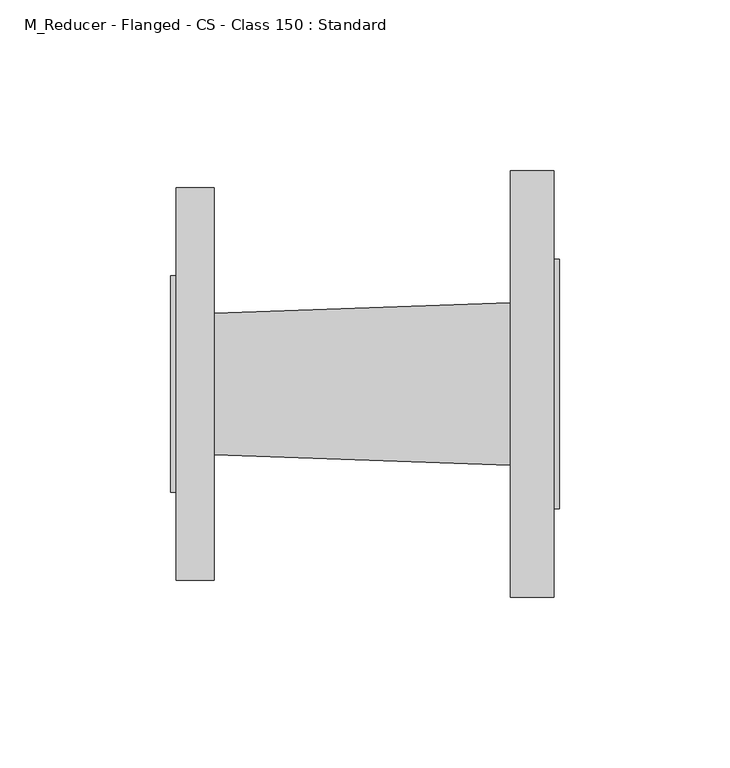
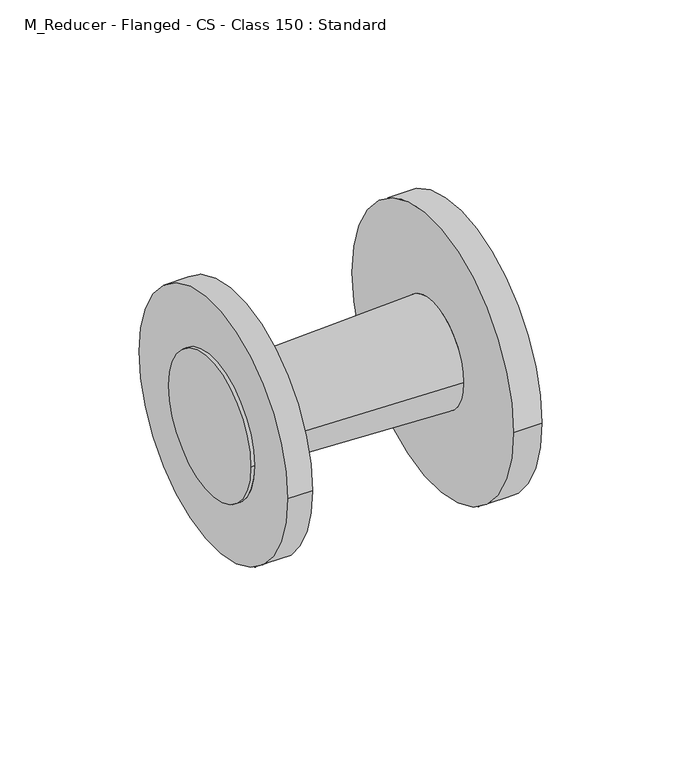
"""IFC4 building model written with IfcOpenShell, lengths in millimetres: pipe fitting geometry, M_Reducer - Flanged - CS - Class 150 : Standard."""

from ifc_helpers import new_model, si_unit, frame, origin, place, context, project, spatial, polyline, circle_curve, source, transform, mapped, element, save
from ifc_brep_helpers import plane_surface, cylinder_surface, revolved_surface, advanced_brep


def m_reducer_flanged_cs_class_150_standard_84a20e65(model_context):
    return source(origin(), model_context, "Body", "AdvancedBrep", [
        advanced_brep(
        [(12.7875, -57.5, 0.0), (12.7875, 57.5, 0.0), (12.7875, 20.8, 0.0), (12.7875, -20.8, 0.0), (1.5875, -57.5, 0.0), (1.5875, 57.5, 0.0), (1.5875, -31.75, 0.0), (1.5875, 31.75, 0.0), (99.7125, 23.8, 0.0), (99.7125, -23.8, 0.0), (112.4125, -62.5, 0.0), (112.4125, 62.5, 0.0), (112.4125, 36.5, 0.0), (112.4125, -36.5, 0.0), (99.7125, -62.5, 0.0), (99.7125, 62.5, 0.0), (0.0, -31.75, 0.0), (0.0, 31.75, 0.0), (114.0, -36.5, 0.0), (114.0, 36.5, 0.0)],
        [
            (0, 1, circle_curve(frame((12.7875, 0.0, 0.0), z_axis=(1.0, 0.0, 0.0), x_axis=(0.0, 1.0, 0.0)), 57.5)),
            (1, 0, circle_curve(frame((12.7875, 0.0, 0.0), z_axis=(1.0, 0.0, 0.0), x_axis=(0.0, 1.0, 0.0)), 57.5)),
            (2, 3, circle_curve(frame((12.7875, 0.0, 0.0), z_axis=(-1.0, 0.0, 0.0), x_axis=(0.0, -1.0, 0.0)), 20.8)),
            (3, 2, circle_curve(frame((12.7875, 0.0, 0.0), z_axis=(-1.0, 0.0, 0.0), x_axis=(0.0, 1.0, 0.0)), 20.8)),
            (4, 5, circle_curve(frame((1.5875, 0.0, 0.0), z_axis=(-1.0, 0.0, 0.0), x_axis=(0.0, 1.0, 0.0)), 57.5)),
            (5, 4, circle_curve(frame((1.5875, 0.0, 0.0), z_axis=(-1.0, 0.0, 0.0), x_axis=(0.0, 1.0, 0.0)), 57.5)),
            (6, 7, circle_curve(frame((1.5875, 0.0, 0.0), z_axis=(1.0, 0.0, 0.0), x_axis=(0.0, 1.0, 0.0)), 31.75)),
            (7, 6, circle_curve(frame((1.5875, 0.0, 0.0), z_axis=(1.0, 0.0, 0.0), x_axis=(0.0, 1.0, 0.0)), 31.75)),
            (0, 4),
            (5, 1),
            (2, 8),
            (8, 9, circle_curve(frame((99.7125, 0.0, 0.0), z_axis=(-1.0, 0.0, 0.0), x_axis=(0.0, -1.0, 0.0)), 23.8)),
            (9, 3),
            (9, 8, circle_curve(frame((99.7125, 0.0, 0.0), z_axis=(-1.0, 0.0, 0.0), x_axis=(0.0, 1.0, 0.0)), 23.8)),
            (10, 11, circle_curve(frame((112.4125, 0.0, 0.0), z_axis=(1.0, 0.0, 0.0), x_axis=(0.0, 1.0, 0.0)), 62.5)),
            (11, 10, circle_curve(frame((112.4125, 0.0, 0.0), z_axis=(1.0, 0.0, 0.0), x_axis=(0.0, 1.0, 0.0)), 62.5)),
            (12, 13, circle_curve(frame((112.4125, 0.0, 0.0), z_axis=(-1.0, 0.0, 0.0), x_axis=(0.0, 1.0, 0.0)), 36.5)),
            (13, 12, circle_curve(frame((112.4125, 0.0, 0.0), z_axis=(-1.0, 0.0, 0.0), x_axis=(0.0, 1.0, 0.0)), 36.5)),
            (14, 15, circle_curve(frame((99.7125, 0.0, 0.0), z_axis=(-1.0, 0.0, 0.0), x_axis=(0.0, 1.0, 0.0)), 62.5)),
            (15, 14, circle_curve(frame((99.7125, 0.0, 0.0), z_axis=(-1.0, 0.0, 0.0), x_axis=(0.0, 1.0, 0.0)), 62.5)),
            (10, 14),
            (15, 11),
            (16, 17, circle_curve(frame((0.0, 0.0, 0.0), z_axis=(-1.0, 0.0, 0.0), x_axis=(0.0, 1.0, 0.0)), 31.75)),
            (17, 16, circle_curve(frame((0.0, 0.0, 0.0), z_axis=(-1.0, 0.0, 0.0), x_axis=(0.0, 1.0, 0.0)), 31.75)),
            (17, 7),
            (6, 16),
            (18, 19, circle_curve(frame((114.0, 0.0, 0.0), z_axis=(1.0, 0.0, 0.0), x_axis=(0.0, 1.0, 0.0)), 36.5)),
            (19, 18, circle_curve(frame((114.0, 0.0, 0.0), z_axis=(1.0, 0.0, 0.0), x_axis=(0.0, 1.0, 0.0)), 36.5)),
            (18, 13),
            (12, 19),
        ],
        [
            plane_surface(frame((12.7875, 57.5, 0.0), z_axis=(1.0, 0.0, 0.0), x_axis=(0.0, 0.0, 1.0))),
            plane_surface(frame((1.5875, 57.5, 0.0), z_axis=(-1.0, 0.0, 0.0), x_axis=(0.0, 0.0, -1.0))),
            cylinder_surface(frame((1.5875, 0.0, 0.0), z_axis=(1.0, 0.0, 0.0), x_axis=(0.0, 1.0, 0.0)), 57.5),
            revolved_surface(polyline([(12.787500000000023, 20.800000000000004, 0.0), (99.71249999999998, 23.8, 0.0)]), (-589.8925, 0.0, 0.0), (1.0, 0.0, 0.0)),
            plane_surface(frame((112.4125, 62.5, 0.0), z_axis=(1.0, 0.0, 0.0), x_axis=(0.0, 0.0, 1.0))),
            plane_surface(frame((99.7125, 62.5, 0.0), z_axis=(-1.0, 0.0, 0.0), x_axis=(0.0, 0.0, -1.0))),
            cylinder_surface(frame((99.7125, 0.0, 0.0), z_axis=(1.0, 0.0, 0.0), x_axis=(0.0, 1.0, 0.0)), 62.5),
            plane_surface(frame((0.0, 31.75, 0.0), z_axis=(-1.0, 0.0, 0.0), x_axis=(0.0, 0.0, -1.0))),
            cylinder_surface(frame((0.0, 0.0, 0.0), z_axis=(1.0, 0.0, 0.0), x_axis=(0.0, 1.0, 0.0)), 31.75),
            plane_surface(frame((114.0, 36.5, 0.0), z_axis=(1.0, 0.0, 0.0), x_axis=(0.0, 0.0, 1.0))),
            cylinder_surface(frame((112.4125, 0.0, 0.0), z_axis=(1.0, 0.0, 0.0), x_axis=(0.0, 1.0, 0.0)), 36.5),
        ],
        [
            (0, [[1, 2], [3, 4]]),
            (1, [[5, 6], [7, 8]]),
            (2, [[-1, 9, -6, 10]]),
            (2, [[-2, -10, -5, -9]]),
            (3, [[11, 12, 13, -3]]),
            (3, [[-11, -4, -13, 14]]),
            (4, [[15, 16], [17, 18]]),
            (5, [[19, 20], [-12, -14]]),
            (6, [[-15, 21, -20, 22]]),
            (6, [[-16, -22, -19, -21]]),
            (7, [[23, 24]]),
            (8, [[-24, 25, -7, 26]]),
            (8, [[-23, -26, -8, -25]]),
            (9, [[27, 28]]),
            (10, [[-27, 29, -17, 30]]),
            (10, [[-28, -30, -18, -29]]),
        ],
    ),
    ])


if __name__ == "__main__":
    model = new_model("IFC4")
    model_context = context("Model", 3, world=origin())
    ifc_project = project(units=[si_unit("LENGTHUNIT", "METRE", prefix="MILLI")], contexts=[model_context])
    site = spatial("IfcSite", under=ifc_project)
    building = spatial("IfcBuilding", under=site)
    placement = place(None, origin())
    m_reducer_flanged_cs_class_150_standard_shape = m_reducer_flanged_cs_class_150_standard_84a20e65(model_context)
    element("IfcPipeFitting", 1, ObjectType="M_Reducer - Flanged - CS - Class 150 : Standard", at=placement, inside=building, context=model_context, shape_type="MappedRepresentation", body=[
        mapped(m_reducer_flanged_cs_class_150_standard_shape, transform((0.0, 0.0, 0.0), x_axis=(1.0, 0.0, 0.0), y_axis=(0.0, 1.0, 0.0), z_axis=(0.0, 0.0, 1.0))),
    ])
    save(model, "model.ifc")
